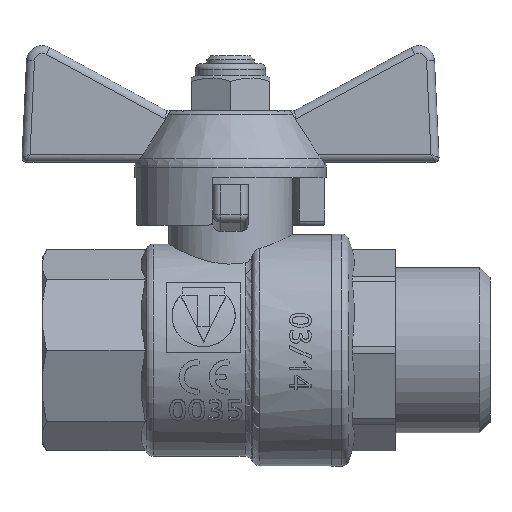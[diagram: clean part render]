
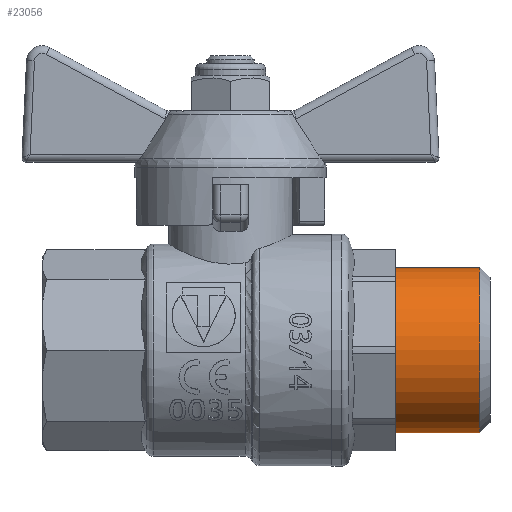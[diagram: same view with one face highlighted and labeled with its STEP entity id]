
A CAD part, front view. The second image highlights one B-rep face of the part: STEP entity #23056.
In plain terms, the highlighted cylindrical face has radius 10.5 mm (diameter 21 mm), a full revolution.
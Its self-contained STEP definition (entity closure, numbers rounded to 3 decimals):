
#23015=CARTESIAN_POINT('',(46.8,0.,0.));
#23016=DIRECTION('',(-1.,-0.,-0.));
#23017=DIRECTION('',(0.,0.,-1.));
#23018=AXIS2_PLACEMENT_3D('',#23015,#23016,#23017);
#23019=CYLINDRICAL_SURFACE('',#23018,10.5);
#23020=CARTESIAN_POINT('',(34.8,0.,-10.5));
#23021=VERTEX_POINT('',#23020);
#23022=CARTESIAN_POINT('',(45.5,0.,-10.5));
#23023=VERTEX_POINT('',#23022);
#23024=CARTESIAN_POINT('',(34.8,0.,-10.5));
#23025=DIRECTION('',(1.,0.,0.));
#23026=VECTOR('',#23025,10.7);
#23027=LINE('',#23024,#23026);
#23028=EDGE_CURVE('',#23021,#23023,#23027,.T.);
#23029=ORIENTED_EDGE('',*,*,#23028,.T.);
#23030=CARTESIAN_POINT('',(45.5,0.,10.5));
#23031=VERTEX_POINT('',#23030);
#23032=CARTESIAN_POINT('',(45.5,0.,0.));
#23033=DIRECTION('',(-1.,-0.,-0.));
#23034=DIRECTION('',(-0.,-0.,1.));
#23035=AXIS2_PLACEMENT_3D('',#23032,#23033,#23034);
#23036=CIRCLE('',#23035,10.5);
#23037=EDGE_CURVE('',#23023,#23031,#23036,.T.);
#23038=ORIENTED_EDGE('',*,*,#23037,.T.);
#23039=CARTESIAN_POINT('',(45.5,0.,0.));
#23040=DIRECTION('',(-1.,-0.,-0.));
#23041=DIRECTION('',(-0.,-0.,1.));
#23042=AXIS2_PLACEMENT_3D('',#23039,#23040,#23041);
#23043=CIRCLE('',#23042,10.5);
#23044=EDGE_CURVE('',#23031,#23023,#23043,.T.);
#23045=ORIENTED_EDGE('',*,*,#23044,.T.);
#23046=ORIENTED_EDGE('',*,*,#23028,.F.);
#23047=CARTESIAN_POINT('',(34.8,0.,0.));
#23048=DIRECTION('',(-1.,-0.,-0.));
#23049=DIRECTION('',(0.,0.,-1.));
#23050=AXIS2_PLACEMENT_3D('',#23047,#23048,#23049);
#23051=CIRCLE('',#23050,10.5);
#23052=EDGE_CURVE('',#23021,#23021,#23051,.T.);
#23053=ORIENTED_EDGE('',*,*,#23052,.F.);
#23054=EDGE_LOOP('',(#23029,#23038,#23045,#23046,#23053));
#23055=FACE_BOUND('',#23054,.T.);
#23056=ADVANCED_FACE('',(#23055),#23019,.T.);
